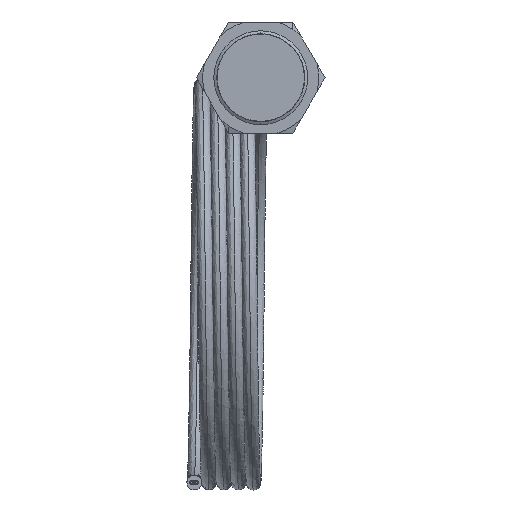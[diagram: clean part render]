
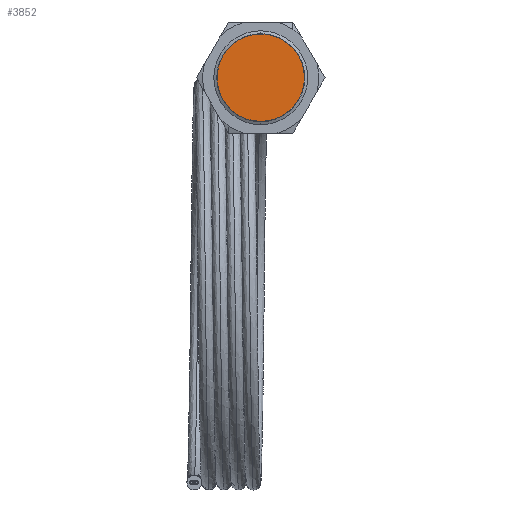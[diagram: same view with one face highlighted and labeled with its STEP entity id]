
A CAD part, left-side view. The second image highlights one B-rep face of the part: STEP entity #3852.
In plain terms, the highlighted planar face has unit normal (-1, 0, 0).
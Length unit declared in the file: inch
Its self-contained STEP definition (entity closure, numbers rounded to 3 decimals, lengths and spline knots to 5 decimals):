
#74 = VERTEX_POINT ( 'NONE', #3924 ) ;
#3666 = ORIENTED_EDGE ( 'NONE', *, *, #10265, .F. ) ;
#3738 = ORIENTED_EDGE ( 'NONE', *, *, #3929, .F. ) ;
#3811 = EDGE_LOOP ( 'NONE', ( #3738, #3666 ) ) ;
#3852 = ADVANCED_FACE ( 'NONE', ( #4898 ), #4899, .F. ) ;
#3924 = CARTESIAN_POINT ( 'NONE',  ( 0., 0., -0.55 ) ) ;
#3929 = EDGE_CURVE ( 'NONE', #10042, #74, #5167, .T. ) ;
#4898 = FACE_OUTER_BOUND ( 'NONE', #3811, .T. ) ;
#4899 = PLANE ( 'NONE',  #4900 ) ;
#4900 = AXIS2_PLACEMENT_3D ( 'NONE', #4901, #4902, #4903 ) ;
#4901 = CARTESIAN_POINT ( 'NONE',  ( 0., 0., 0. ) ) ;
#4902 = DIRECTION ( 'NONE',  ( 1., 0., 0. ) ) ;
#4903 = DIRECTION ( 'NONE',  ( 0., 0., -1. ) ) ;
#5167 = CIRCLE ( 'NONE', #5168, 0.55 ) ;
#5168 = AXIS2_PLACEMENT_3D ( 'NONE', #5169, #5170, #5176 ) ;
#5169 = CARTESIAN_POINT ( 'NONE',  ( 0., 0., 0. ) ) ;
#5170 = DIRECTION ( 'NONE',  ( 1., 0., 0. ) ) ;
#5176 = DIRECTION ( 'NONE',  ( 0., 0., 1. ) ) ;
#10042 = VERTEX_POINT ( 'NONE', #10658 ) ;
#10265 = EDGE_CURVE ( 'NONE', #74, #10042, #10820, .T. ) ;
#10658 = CARTESIAN_POINT ( 'NONE',  ( 0., 0., 0.55 ) ) ;
#10820 = CIRCLE ( 'NONE', #10821, 0.55 ) ;
#10821 = AXIS2_PLACEMENT_3D ( 'NONE', #10822, #10823, #10824 ) ;
#10822 = CARTESIAN_POINT ( 'NONE',  ( 0., 0., 0. ) ) ;
#10823 = DIRECTION ( 'NONE',  ( 1., 0., 0. ) ) ;
#10824 = DIRECTION ( 'NONE',  ( 0., 0., 1. ) ) ;
